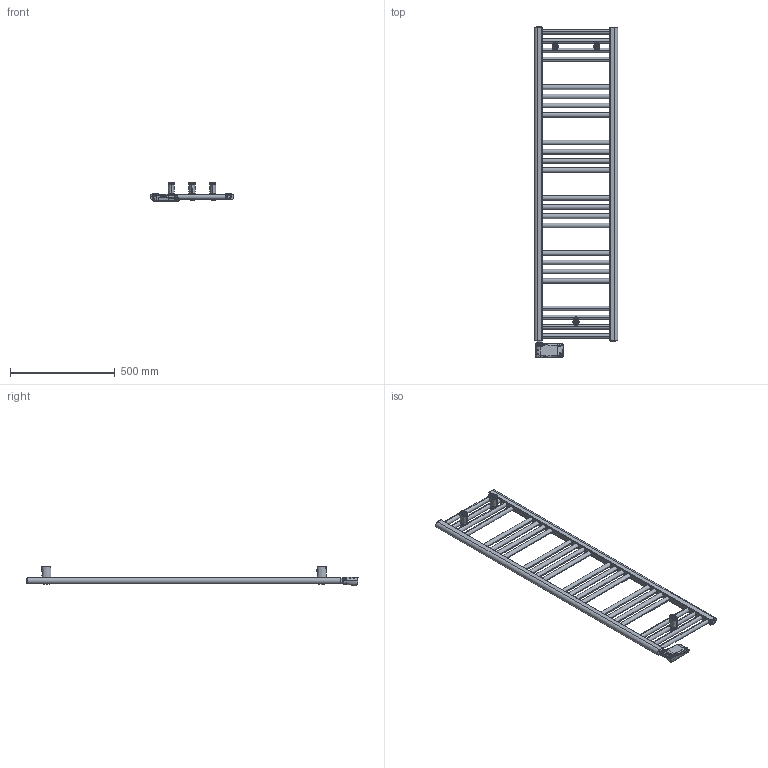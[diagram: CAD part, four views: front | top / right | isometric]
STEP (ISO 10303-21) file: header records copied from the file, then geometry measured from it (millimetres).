
FILE_DESCRIPTION((''),'2;1');
FILE_NAME('3581656100025_3D_SITO_ASM','2026-01-14T10:52:17',('PC132'),(''),'CREO PARAMETRIC BY PTC INC, 2025323','CREO PARAMETRIC BY PTC INC, 2025323','');
FILE_SCHEMA(('AUTOMOTIVE_DESIGN { 1 0 10303 214 1 1 1 1 }'));
Length unit declared in the file: millimetre
Products named in the file (15): 2551650500210_3D_SITO; BICCHIERE_PARETE; PERNO_SCORROVOLE; DADO_QUADRO_M5_X_GIUNTO; DADO_M6_X_GIUNTO; PERNO_SCORREVOLE_ASM; BASETTA_ANTERIORE; 1527181430001; VITE_CR_M5_16; VITE_CR_SV_M6_35; 1102001310058_ASM; 1010181240001; 1117000001010; 1035270000042; 3581656100025_3D_SITO_ASM
Assembly tree (17 placements, depth 4):
  3581656100025_3D_SITO_ASM
    2551650500210_3D_SITO
    1102001310058_ASM  x3
      BICCHIERE_PARETE
      PERNO_SCORREVOLE_ASM
        PERNO_SCORROVOLE
        DADO_QUADRO_M5_X_GIUNTO
        DADO_M6_X_GIUNTO
      BASETTA_ANTERIORE
      1527181430001
      VITE_CR_M5_16
      VITE_CR_SV_M6_35
    1010181240001  x2
    1117000001010
    1035270000042
Bounding box: 400 x 1584.89 x 91.48 mm (x, y, z)
Volume: 6390446.6 mm3; surface area: 1083406.8 mm2
Topology: 33 solids, 48 shells, 5724 faces, 12978 edges, 7364 vertices
Faces by surface type: cylinder 2134, plane 1239, torus 777, bspline 729, sphere 630, cone 143, extrusion 72
Entity records: 182112 total; most frequent: CARTESIAN_POINT 91914, DIRECTION 12469, ORIENTED_EDGE 12389, PRESENTATION_STYLE_ASSIGNMENT 6253, EDGE_CURVE 6223, STYLED_ITEM 6125, CURVE_STYLE 6105, AXIS2_PLACEMENT_3D 4879
